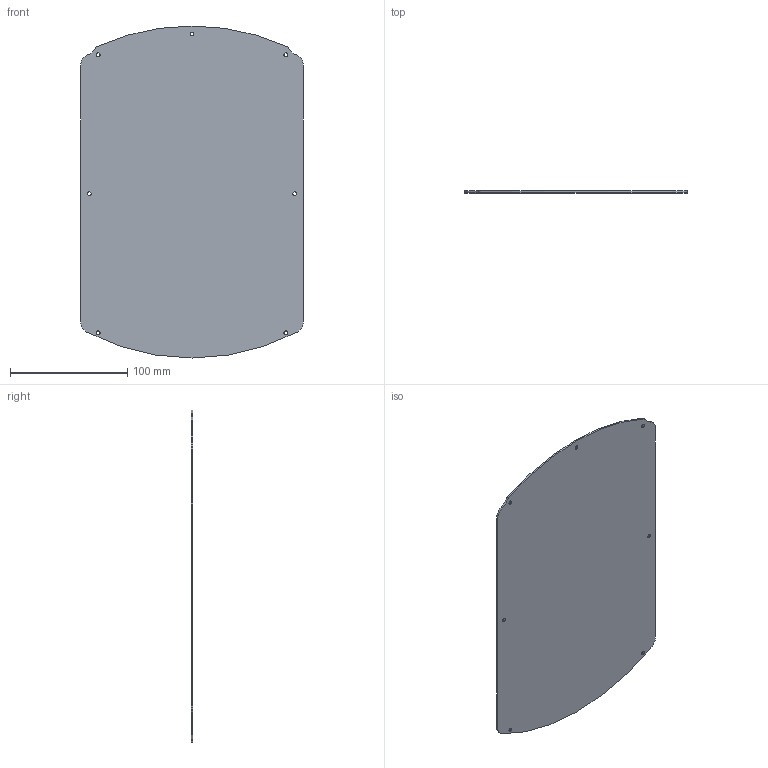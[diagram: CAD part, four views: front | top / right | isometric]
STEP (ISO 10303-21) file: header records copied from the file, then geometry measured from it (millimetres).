
FILE_DESCRIPTION (( 'STEP AP214' ), '1' );
FILE_NAME ('30x Bottom base.STEP', '2024-02-28T19:51:39', ( '' ), ( '' ), 'SwSTEP 2.0', 'SolidWorks 2023', '' );
FILE_SCHEMA (( 'AUTOMOTIVE_DESIGN' ));
Length unit declared in the file: millimetre
Products named in the file (1): 30x Bottom base
Bounding box: 190 x 1.5 x 283 mm (x, y, z)
Volume: 75839.1 mm3; surface area: 102509.4 mm2
Topology: 1 solids, 1 shells, 31 faces, 87 edges, 58 vertices
Faces by surface type: cylinder 27, plane 4
Entity records: 1086 total; most frequent: DIRECTION 205, CARTESIAN_POINT 177, ORIENTED_EDGE 174, EDGE_CURVE 87, AXIS2_PLACEMENT_3D 86, VERTEX_POINT 58, CIRCLE 54, EDGE_LOOP 45
